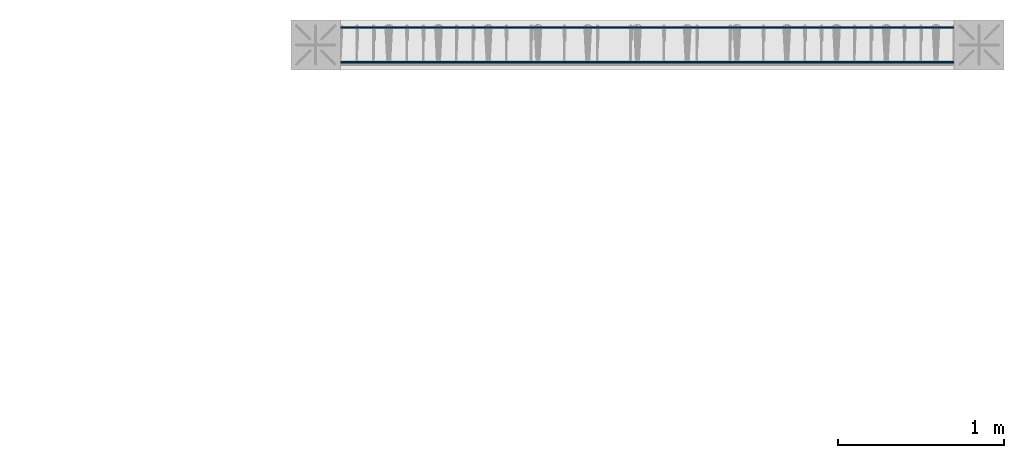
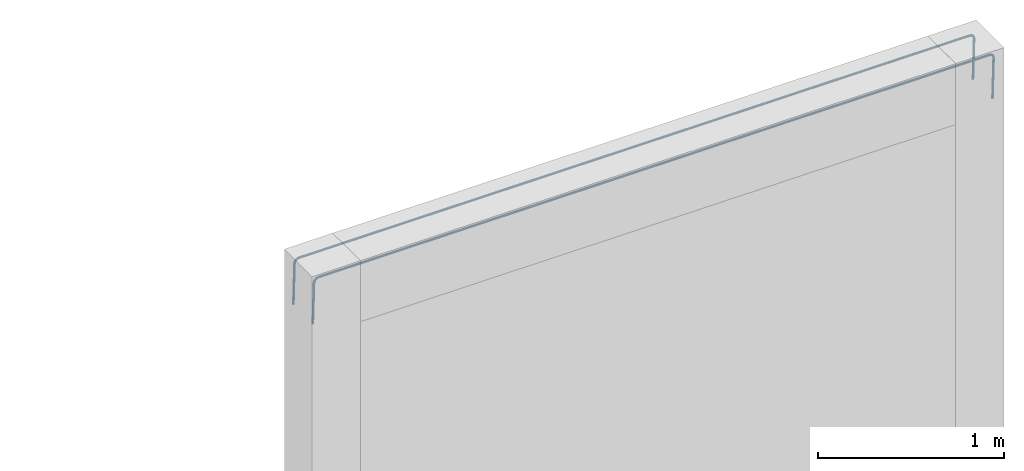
# One storey, part 9 of 11: 1 reinforcing bar.
"""IFC2X3 building model written with IfcOpenShell, lengths in metres."""

from ifc_helpers import new_model, entity, si_unit, direction, frame, origin, place, context, subcontext, project, spatial, shape, source, transform, mapped, element, save


model = new_model("IFC2X3")

# Units and contexts
model_context = context("Model", 3, precision=0.0, world=origin(), true_north=direction((0.0, 1.0)))
plan_context = context("Plan", 3, precision=0.0, world=origin(), true_north=direction((0.0, 1.0)))
body_context = subcontext(model_context, "Body", "Model", "MODEL_VIEW", scale=1.0)
ifc_project = project(units=[si_unit("LENGTHUNIT", "METRE"), si_unit("AREAUNIT", "SQUARE_METRE"), si_unit("VOLUMEUNIT", "CUBIC_METRE"), si_unit("PLANEANGLEUNIT", "RADIAN"), si_unit("THERMODYNAMICTEMPERATUREUNIT", "DEGREE_CELSIUS"), si_unit("FORCEUNIT", "NEWTON"), si_unit("MASSUNIT", "GRAM", prefix="KILO")], contexts=[model_context, plan_context])

# Site, building, storey
placement = place(None, origin())
site = spatial("IfcSite", under=ifc_project, at=placement, Name="Default Site", CompositionType="ELEMENT")
building = spatial("IfcBuilding", under=site, at=placement, Name="Default Building", CompositionType="ELEMENT")
storey_placement = place(placement, frame((0.0, 0.0, 3.0), z_axis=(1.0, 0.0, 0.0), x_axis=(0.0, 0.0, 1.0)))
storey = spatial("IfcBuildingStorey", under=building, at=storey_placement, Name="Piano 1", CompositionType="ELEMENT", Elevation=3.0)

# Reinforcing bar
shared_shape_1 = source(origin(), body_context, None, "AdvancedSweptSolid", [
    entity("IfcSweptDiskSolid", entity("IfcCompositeCurve", [entity("IfcCompositeCurveSegment", "CONTINUOUS", True, entity("IfcPolyline", [entity("IfcCartesianPoint", [0.0, 0.0, 0.0]), entity("IfcCartesianPoint", [0.0, -0.012466, 0.276029]), entity("IfcCartesianPoint", [0.003751, -0.013097, 0.290014]), entity("IfcCartesianPoint", [0.014, -0.01356, 0.300253]), entity("IfcCartesianPoint", [0.028, -0.013729, 0.304]), entity("IfcCartesianPoint", [4.196, -0.013729, 0.304]), entity("IfcCartesianPoint", [4.21, -0.01356, 0.300253]), entity("IfcCartesianPoint", [4.220249, -0.013097, 0.290014]), entity("IfcCartesianPoint", [4.224, -0.012466, 0.276029]), entity("IfcCartesianPoint", [4.224, 0.0, 0.0])]))], False), 0.007, 0.0, 0.0),
])
shared_shape_2 = source(origin(), body_context, None, "MappedRepresentation", [mapped(shared_shape_1, transform((32.388, 2.908729, 2.644)))])
shared_shape_3 = source(origin(), body_context, None, "AdvancedSweptSolid", [
    entity("IfcSweptDiskSolid", entity("IfcCompositeCurve", [entity("IfcCompositeCurveSegment", "CONTINUOUS", True, entity("IfcPolyline", [entity("IfcCartesianPoint", [0.0, 0.0, 0.0]), entity("IfcCartesianPoint", [0.0, -0.012466, 0.276029]), entity("IfcCartesianPoint", [0.003751, -0.013097, 0.290014]), entity("IfcCartesianPoint", [0.014, -0.01356, 0.300253]), entity("IfcCartesianPoint", [0.028, -0.013729, 0.304]), entity("IfcCartesianPoint", [4.196, -0.013729, 0.304]), entity("IfcCartesianPoint", [4.21, -0.01356, 0.300253]), entity("IfcCartesianPoint", [4.220249, -0.013097, 0.290014]), entity("IfcCartesianPoint", [4.224, -0.012466, 0.276029]), entity("IfcCartesianPoint", [4.224, 0.0, 0.0])]))], False), 0.007, 0.0, 0.0),
])
shared_shape_4 = source(origin(), body_context, None, "MappedRepresentation", [mapped(shared_shape_3, transform((32.388, 3.118729, 2.644)))])
element("IfcReinforcingBar", 1, at=placement, inside=storey, Name="Arm Superiore; Trave:1 [Piano:1]", BarLength=9.640203, BarRole="MAIN", BarSurface="TEXTURED", NominalDiameter=0.014, shapes=[
    shape(body_context, None, "MappedRepresentation", [mapped(shared_shape_2, transform((0.0, 0.0, 0.0))), mapped(shared_shape_4, transform((0.0, 0.0, 0.0)))]),
])

save(model, "model.ifc")
